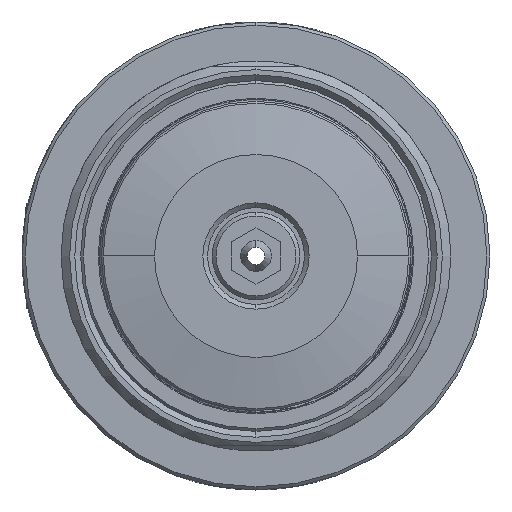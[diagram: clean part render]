
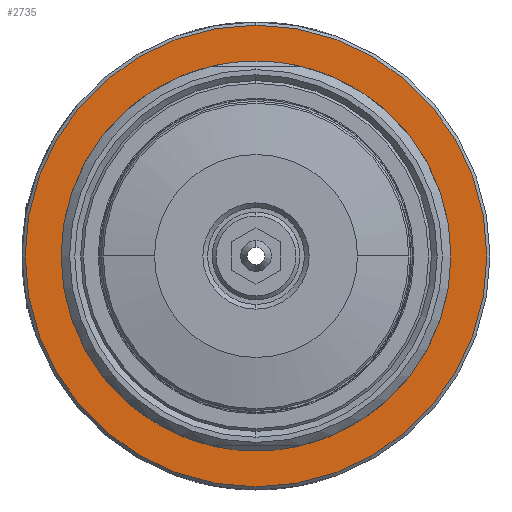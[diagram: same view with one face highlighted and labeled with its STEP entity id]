
A CAD part, left-side view. The second image highlights one B-rep face of the part: STEP entity #2735.
In plain terms, the highlighted planar face has unit normal (-1, 0, 0).
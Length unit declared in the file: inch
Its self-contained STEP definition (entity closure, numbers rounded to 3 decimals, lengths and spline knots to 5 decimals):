
#2164 = EDGE_LOOP ( 'NONE', ( #2871, #2778 ) ) ;
#2398 = EDGE_CURVE ( 'NONE', #2399, #2400, #10483, .T. ) ;
#2399 = VERTEX_POINT ( 'NONE', #10484 ) ;
#2400 = VERTEX_POINT ( 'NONE', #10427 ) ;
#2591 = EDGE_CURVE ( 'NONE', #2643, #2667, #10978, .T. ) ;
#2643 = VERTEX_POINT ( 'NONE', #11133 ) ;
#2667 = VERTEX_POINT ( 'NONE', #11081 ) ;
#2734 = EDGE_CURVE ( 'NONE', #2667, #2643, #11113, .T. ) ;
#2735 = ADVANCED_FACE ( 'NONE', ( #11118, #11108 ), #11107, .T. ) ;
#2778 = ORIENTED_EDGE ( 'NONE', *, *, #2398, .T. ) ;
#2800 = ORIENTED_EDGE ( 'NONE', *, *, #2734, .F. ) ;
#2871 = ORIENTED_EDGE ( 'NONE', *, *, #2882, .T. ) ;
#2882 = EDGE_CURVE ( 'NONE', #2400, #2399, #11642, .T. ) ;
#2883 = ORIENTED_EDGE ( 'NONE', *, *, #2591, .F. ) ;
#2945 = EDGE_LOOP ( 'NONE', ( #2800, #2883 ) ) ;
#10427 = CARTESIAN_POINT ( 'NONE',  ( -0.75, 0., -1.4775 ) ) ;
#10479 = DIRECTION ( 'NONE',  ( 0., 0., 1. ) ) ;
#10480 = DIRECTION ( 'NONE',  ( -1., 0., 0. ) ) ;
#10481 = CARTESIAN_POINT ( 'NONE',  ( -0.75, 0., 0. ) ) ;
#10482 = AXIS2_PLACEMENT_3D ( 'NONE', #10481, #10480, #10479 ) ;
#10483 = CIRCLE ( 'NONE', #10482, 1.4775 ) ;
#10484 = CARTESIAN_POINT ( 'NONE',  ( -0.75, 0., 1.4775 ) ) ;
#10974 = DIRECTION ( 'NONE',  ( 0., 0., 1. ) ) ;
#10975 = DIRECTION ( 'NONE',  ( -1., 0., 0. ) ) ;
#10976 = CARTESIAN_POINT ( 'NONE',  ( -0.75, 0., 0. ) ) ;
#10977 = AXIS2_PLACEMENT_3D ( 'NONE', #10976, #10975, #10974 ) ;
#10978 = CIRCLE ( 'NONE', #10977, 1.225 ) ;
#11081 = CARTESIAN_POINT ( 'NONE',  ( -0.75, 0., 1.225 ) ) ;
#11102 = DIRECTION ( 'NONE',  ( 0., 0., 1. ) ) ;
#11103 = DIRECTION ( 'NONE',  ( -1., 0., 0. ) ) ;
#11104 = CARTESIAN_POINT ( 'NONE',  ( -0.75, 1.225, 0. ) ) ;
#11105 = AXIS2_PLACEMENT_3D ( 'NONE', #11104, #11103, #11102 ) ;
#11107 = PLANE ( 'NONE',  #11105 ) ;
#11108 = FACE_BOUND ( 'NONE', #2945, .T. ) ;
#11109 = DIRECTION ( 'NONE',  ( 0., 0., 1. ) ) ;
#11110 = DIRECTION ( 'NONE',  ( -1., 0., 0. ) ) ;
#11111 = CARTESIAN_POINT ( 'NONE',  ( -0.75, 0., 0. ) ) ;
#11112 = AXIS2_PLACEMENT_3D ( 'NONE', #11111, #11110, #11109 ) ;
#11113 = CIRCLE ( 'NONE', #11112, 1.225 ) ;
#11118 = FACE_OUTER_BOUND ( 'NONE', #2164, .T. ) ;
#11133 = CARTESIAN_POINT ( 'NONE',  ( -0.75, 0., -1.225 ) ) ;
#11427 = CARTESIAN_POINT ( 'NONE',  ( -0.75, 0., 0. ) ) ;
#11639 = DIRECTION ( 'NONE',  ( 0., 0., 1. ) ) ;
#11640 = DIRECTION ( 'NONE',  ( -1., 0., 0. ) ) ;
#11641 = AXIS2_PLACEMENT_3D ( 'NONE', #11427, #11640, #11639 ) ;
#11642 = CIRCLE ( 'NONE', #11641, 1.4775 ) ;
